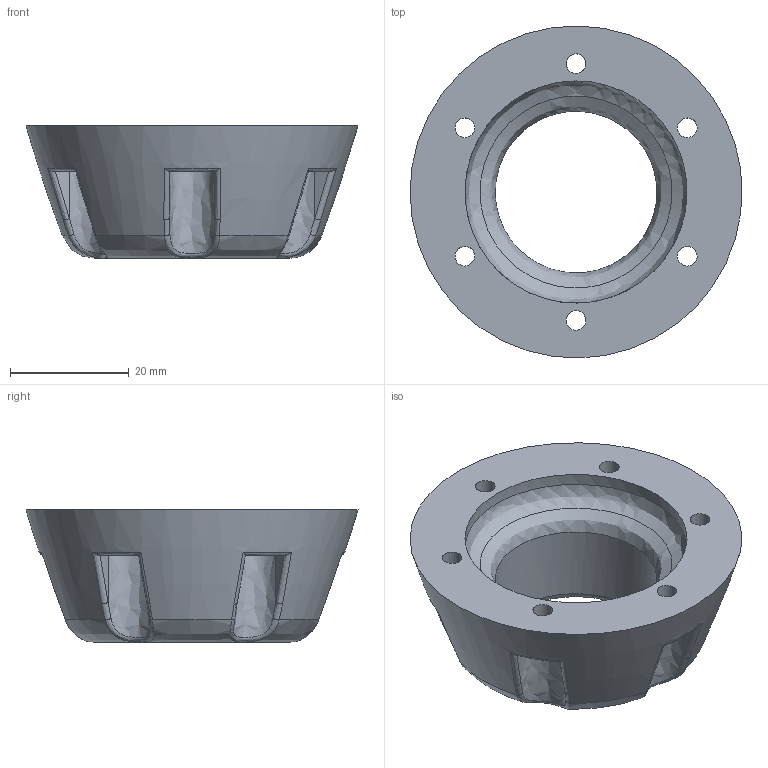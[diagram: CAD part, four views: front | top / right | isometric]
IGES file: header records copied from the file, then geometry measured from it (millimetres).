
Global section: file name: Retainer; native system: Autodesk Inventor 2015; preprocessor: unknown; author: Jascha; date: 20140729.164723; units: inch
Bounding box: 55.8 x 55.81 x 22.23 mm (x, y, z)
Volume: 22521.7 mm3; surface area: 8863.7 mm2
Topology: 1 solids, 1 shells, 75 faces, 206 edges, 133 vertices
Faces by surface type: bspline 75
